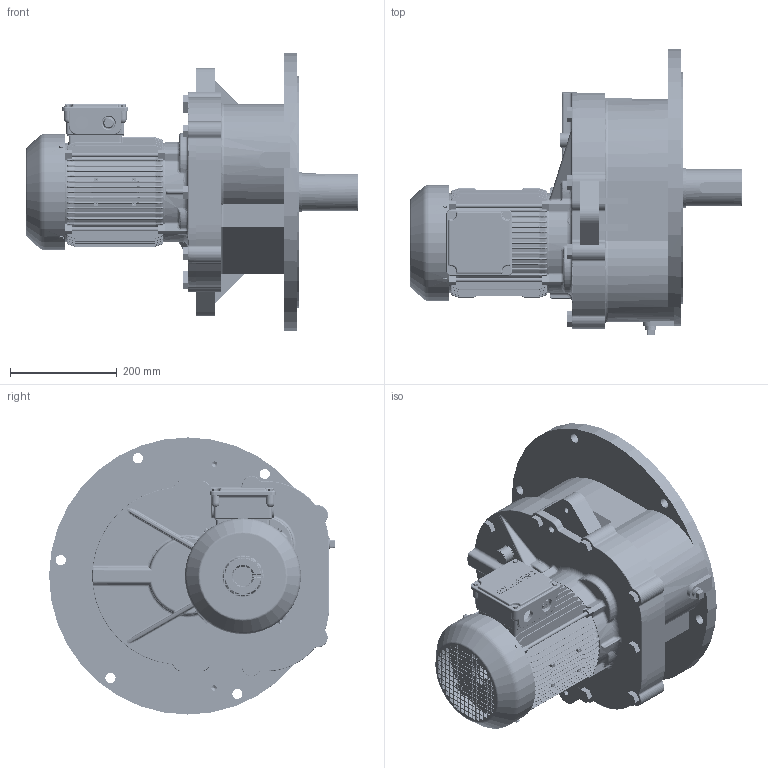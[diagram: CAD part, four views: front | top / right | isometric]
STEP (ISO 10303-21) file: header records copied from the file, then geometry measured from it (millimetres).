
FILE_DESCRIPTION (( 'STEP AP214' ), '1' );
FILE_NAME ('EK2DO100778H0001_F1VA27_2.2KW_R100~120_CUSTOMER.stp', '2024-03-19T06:52:38', ( 'admin' ), ( '' ), 'SwSTEP 2.0', 'SolidWorks 2022', '' );
FILE_SCHEMA (( 'AUTOMOTIVE_DESIGN' ));
Length unit declared in the file: millimetre
Products named in the file (1): EK2DO100778H0001_F1VA27_2.2KW_R100~120_CUSTOMER
Bounding box: 623 x 536.29 x 520 mm (x, y, z)
Volume: 28166105.4 mm3; surface area: 2149203.7 mm2
Topology: 32 solids, 35 shells, 8749 faces, 22095 edges, 13385 vertices
Faces by surface type: cylinder 3041, bspline 2407, plane 2024, torus 724, cone 338, sphere 215
Entity records: 438624 total; most frequent: CARTESIAN_POINT 146835, ORIENTED_EDGE 43762, DIRECTION 37301, EDGE_CURVE 21881, AXIS2_PLACEMENT_3D 14292, VERTEX_POINT 13350, EDGE_LOOP 9369, UNCERTAINTY_MEASURE_WITH_UNIT 8783
